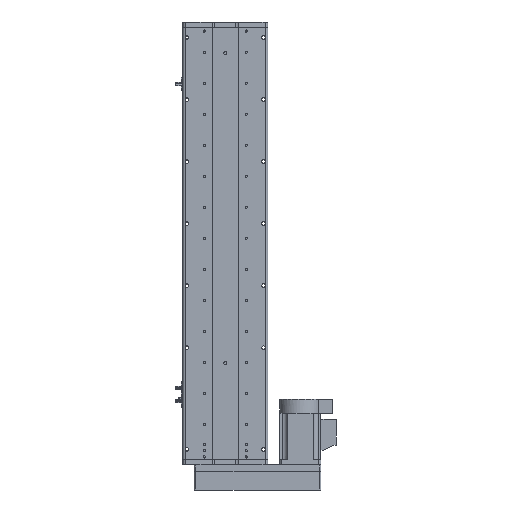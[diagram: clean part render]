
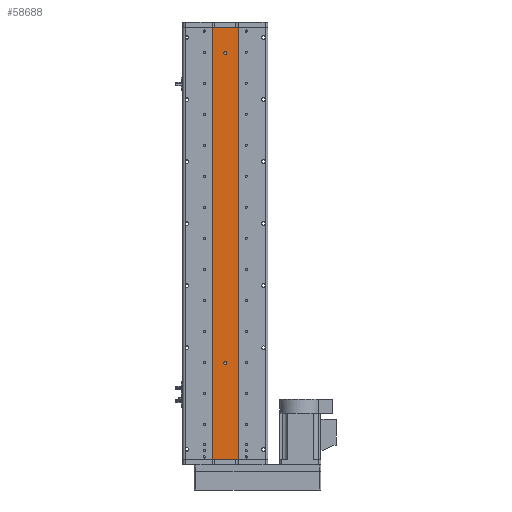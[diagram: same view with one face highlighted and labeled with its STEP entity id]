
A CAD part, front view. The second image highlights one B-rep face of the part: STEP entity #58688.
In plain terms, the highlighted planar face has unit normal (0, -1, 0).
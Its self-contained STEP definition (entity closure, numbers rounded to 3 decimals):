
#931 = DIRECTION ( 'NONE',  ( 1., 0., 0. ) ) ;
#1263 = VERTEX_POINT ( 'NONE', #25408 ) ;
#1410 = CARTESIAN_POINT ( 'NONE',  ( 0., 1., -234.5 ) ) ;
#2003 = EDGE_CURVE ( 'NONE', #1263, #49265, #50155, .T. ) ;
#2491 = CIRCLE ( 'NONE', #26433, 3. ) ;
#2492 = DIRECTION ( 'NONE',  ( 0., 0., -1. ) ) ;
#2592 = CIRCLE ( 'NONE', #7199, 3. ) ;
#2789 = ORIENTED_EDGE ( 'NONE', *, *, #26957, .T. ) ;
#3474 = ORIENTED_EDGE ( 'NONE', *, *, #8469, .F. ) ;
#7199 = AXIS2_PLACEMENT_3D ( 'NONE', #36431, #8536, #41092 ) ;
#8469 = EDGE_CURVE ( 'NONE', #39069, #40464, #2491, .T. ) ;
#8536 = DIRECTION ( 'NONE',  ( 0., -1., 0. ) ) ;
#9333 = EDGE_LOOP ( 'NONE', ( #3474, #59464 ) ) ;
#9965 = FACE_BOUND ( 'NONE', #33762, .T. ) ;
#10688 = EDGE_CURVE ( 'NONE', #13798, #45057, #37977, .T. ) ;
#12543 = CARTESIAN_POINT ( 'NONE',  ( 25., 1., 418.5 ) ) ;
#13051 = CARTESIAN_POINT ( 'NONE',  ( 25., 1., -418.5 ) ) ;
#13798 = VERTEX_POINT ( 'NONE', #24047 ) ;
#18749 = DIRECTION ( 'NONE',  ( 0., -1., 0. ) ) ;
#18813 = VECTOR ( 'NONE', #931, 1000. ) ;
#19035 = CARTESIAN_POINT ( 'NONE',  ( -25., 1., 418.5 ) ) ;
#19288 = AXIS2_PLACEMENT_3D ( 'NONE', #41418, #55484, #27598 ) ;
#20903 = FACE_OUTER_BOUND ( 'NONE', #41156, .T. ) ;
#22474 = ORIENTED_EDGE ( 'NONE', *, *, #44013, .F. ) ;
#22712 = PLANE ( 'NONE',  #19288 ) ;
#23968 = CARTESIAN_POINT ( 'NONE',  ( 0., 1., 368.5 ) ) ;
#24047 = CARTESIAN_POINT ( 'NONE',  ( -25., 1., -418.5 ) ) ;
#25408 = CARTESIAN_POINT ( 'NONE',  ( 0., 1., 365.5 ) ) ;
#25609 = VECTOR ( 'NONE', #55039, 1000. ) ;
#25748 = AXIS2_PLACEMENT_3D ( 'NONE', #23968, #56587, #28621 ) ;
#25824 = DIRECTION ( 'NONE',  ( 0., -1., 0. ) ) ;
#25864 = LINE ( 'NONE', #12543, #49142 ) ;
#26433 = AXIS2_PLACEMENT_3D ( 'NONE', #46610, #18749, #51302 ) ;
#26957 = EDGE_CURVE ( 'NONE', #56588, #13798, #43793, .T. ) ;
#27598 = DIRECTION ( 'NONE',  ( 0., 0., 1. ) ) ;
#28621 = DIRECTION ( 'NONE',  ( 0., 0., -1. ) ) ;
#30383 = CARTESIAN_POINT ( 'NONE',  ( -25., 1., 418.5 ) ) ;
#31187 = LINE ( 'NONE', #33512, #18813 ) ;
#31929 = ORIENTED_EDGE ( 'NONE', *, *, #51668, .F. ) ;
#33291 = FACE_BOUND ( 'NONE', #9333, .T. ) ;
#33386 = EDGE_CURVE ( 'NONE', #49265, #1263, #44032, .T. ) ;
#33512 = CARTESIAN_POINT ( 'NONE',  ( 25., 1., 418.5 ) ) ;
#33762 = EDGE_LOOP ( 'NONE', ( #38016, #51990 ) ) ;
#34494 = VERTEX_POINT ( 'NONE', #53396 ) ;
#36431 = CARTESIAN_POINT ( 'NONE',  ( 0., 1., -231.5 ) ) ;
#37977 = LINE ( 'NONE', #13051, #25609 ) ;
#38016 = ORIENTED_EDGE ( 'NONE', *, *, #2003, .F. ) ;
#39069 = VERTEX_POINT ( 'NONE', #1410 ) ;
#39891 = CARTESIAN_POINT ( 'NONE',  ( 0., 1., 371.5 ) ) ;
#40464 = VERTEX_POINT ( 'NONE', #46215 ) ;
#41092 = DIRECTION ( 'NONE',  ( 0., 0., -1. ) ) ;
#41156 = EDGE_LOOP ( 'NONE', ( #50437, #31929, #22474, #2789 ) ) ;
#41418 = CARTESIAN_POINT ( 'NONE',  ( 25., 1., 418.5 ) ) ;
#43793 = LINE ( 'NONE', #30383, #54767 ) ;
#44013 = EDGE_CURVE ( 'NONE', #56588, #34494, #31187, .T. ) ;
#44032 = CIRCLE ( 'NONE', #44707, 3. ) ;
#44707 = AXIS2_PLACEMENT_3D ( 'NONE', #53732, #25824, #58432 ) ;
#45057 = VERTEX_POINT ( 'NONE', #60126 ) ;
#45145 = DIRECTION ( 'NONE',  ( 0., 0., -1. ) ) ;
#46215 = CARTESIAN_POINT ( 'NONE',  ( 0., 1., -228.5 ) ) ;
#46610 = CARTESIAN_POINT ( 'NONE',  ( 0., 1., -231.5 ) ) ;
#49142 = VECTOR ( 'NONE', #45145, 1000. ) ;
#49265 = VERTEX_POINT ( 'NONE', #39891 ) ;
#50155 = CIRCLE ( 'NONE', #25748, 3. ) ;
#50437 = ORIENTED_EDGE ( 'NONE', *, *, #10688, .T. ) ;
#51302 = DIRECTION ( 'NONE',  ( 0., 0., -1. ) ) ;
#51668 = EDGE_CURVE ( 'NONE', #34494, #45057, #25864, .T. ) ;
#51990 = ORIENTED_EDGE ( 'NONE', *, *, #33386, .F. ) ;
#53396 = CARTESIAN_POINT ( 'NONE',  ( 25., 1., 418.5 ) ) ;
#53732 = CARTESIAN_POINT ( 'NONE',  ( 0., 1., 368.5 ) ) ;
#54767 = VECTOR ( 'NONE', #2492, 1000. ) ;
#55039 = DIRECTION ( 'NONE',  ( 1., 0., 0. ) ) ;
#55484 = DIRECTION ( 'NONE',  ( 0., 1., 0. ) ) ;
#56587 = DIRECTION ( 'NONE',  ( 0., -1., 0. ) ) ;
#56588 = VERTEX_POINT ( 'NONE', #19035 ) ;
#58432 = DIRECTION ( 'NONE',  ( 0., 0., -1. ) ) ;
#58688 = ADVANCED_FACE ( 'NONE', ( #33291, #9965, #20903 ), #22712, .F. ) ;
#59464 = ORIENTED_EDGE ( 'NONE', *, *, #59628, .F. ) ;
#59628 = EDGE_CURVE ( 'NONE', #40464, #39069, #2592, .T. ) ;
#60126 = CARTESIAN_POINT ( 'NONE',  ( 25., 1., -418.5 ) ) ;
